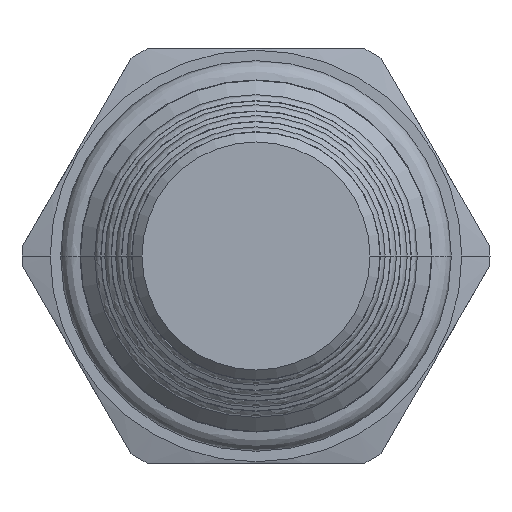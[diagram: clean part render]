
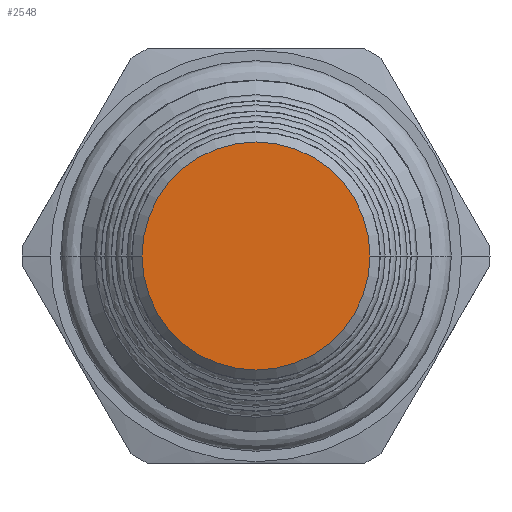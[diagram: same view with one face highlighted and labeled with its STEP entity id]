
A CAD part, front view. The second image highlights one B-rep face of the part: STEP entity #2548.
In plain terms, the highlighted planar face has unit normal (0, -1, 0).
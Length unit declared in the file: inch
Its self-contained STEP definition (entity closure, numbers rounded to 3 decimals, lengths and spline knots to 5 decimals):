
#287=CARTESIAN_POINT('',(0.,-4.342,0.));
#288=DIRECTION('',(0.,-1.,0.));
#289=DIRECTION('',(-1.,0.,0.));
#290=AXIS2_PLACEMENT_3D('',#287,#288,#289);
#305=CARTESIAN_POINT('',(0.,-4.342,0.));
#306=DIRECTION('',(0.,-1.,0.));
#307=DIRECTION('',(1.,0.,0.));
#308=AXIS2_PLACEMENT_3D('',#305,#306,#307);
#1765=CARTESIAN_POINT('',(0.3435,-4.342,0.));
#1766=CARTESIAN_POINT('',(-0.3435,-4.342,0.));
#1767=VERTEX_POINT('',#1765);
#1768=VERTEX_POINT('',#1766);
#2538=CARTESIAN_POINT('',(0.,-4.342,0.));
#2539=DIRECTION('',(0.,-1.,0.));
#2540=DIRECTION('',(-1.,0.,0.));
#2541=AXIS2_PLACEMENT_3D('',#2538,#2539,#2540);
#2542=PLANE('',#2541);
#2543=ORIENTED_EDGE('',*,*,#2528,.F.);
#2545=ORIENTED_EDGE('',*,*,#2544,.F.);
#2546=EDGE_LOOP('',(#2543,#2545));
#2547=FACE_OUTER_BOUND('',#2546,.F.);
#2548=ADVANCED_FACE('',(#2547),#2542,.T.);
#291=CIRCLE('',#290,0.3435);
#309=CIRCLE('',#308,0.3435);
#2528=EDGE_CURVE('',#1768,#1767,#291,.T.);
#2544=EDGE_CURVE('',#1767,#1768,#309,.T.);
